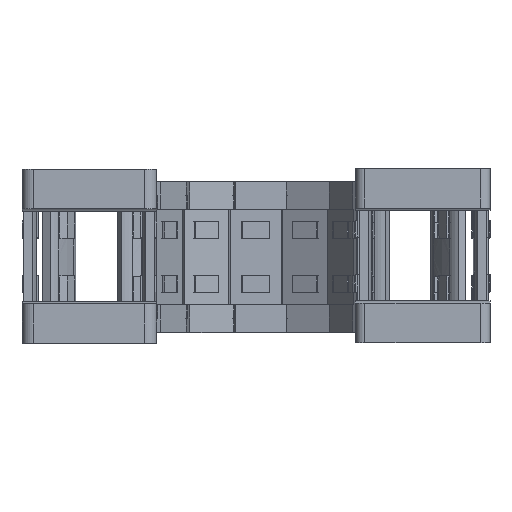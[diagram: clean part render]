
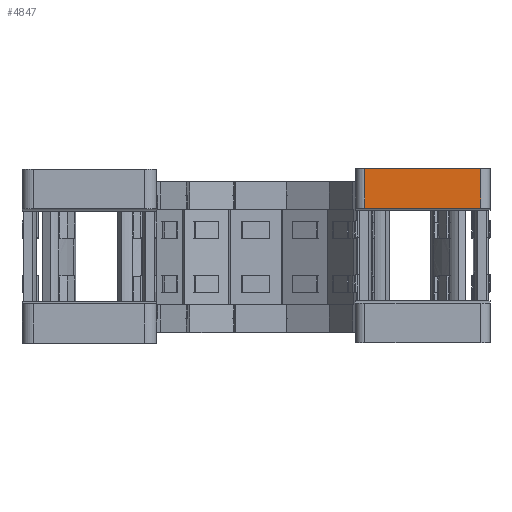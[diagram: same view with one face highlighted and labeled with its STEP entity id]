
A CAD part, top view. The second image highlights one B-rep face of the part: STEP entity #4847.
In plain terms, the highlighted planar face has unit normal (0, 0, 1).
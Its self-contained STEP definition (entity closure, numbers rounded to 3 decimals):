
#1865=FACE_OUTER_BOUND('',#25395,.T.);
#4847=ADVANCED_FACE('',(#1865),#7940,.T.);
#7940=PLANE('',#67131);
#11516=LINE('',#90985,#18372);
#11530=LINE('',#91030,#18386);
#11550=LINE('',#91105,#18406);
#11551=LINE('',#91106,#18407);
#18372=VECTOR('',#73045,1.);
#18386=VECTOR('',#73077,1.);
#18406=VECTOR('',#73141,1.);
#18407=VECTOR('',#73142,1.);
#25395=EDGE_LOOP('',(#29782,#29783,#29784,#29785));
#29782=ORIENTED_EDGE('',*,*,#55899,.T.);
#29783=ORIENTED_EDGE('',*,*,#55868,.T.);
#29784=ORIENTED_EDGE('',*,*,#55900,.T.);
#29785=ORIENTED_EDGE('',*,*,#55847,.T.);
#48977=VERTEX_POINT('',#90984);
#48978=VERTEX_POINT('',#90986);
#48992=VERTEX_POINT('',#91029);
#48993=VERTEX_POINT('',#91031);
#55847=EDGE_CURVE('',#48978,#48977,#11516,.T.);
#55868=EDGE_CURVE('',#48993,#48992,#11530,.T.);
#55899=EDGE_CURVE('',#48977,#48993,#11550,.T.);
#55900=EDGE_CURVE('',#48992,#48978,#11551,.T.);
#67131=AXIS2_PLACEMENT_3D('',#91107,#73143,#73144);
#73045=DIRECTION('',(1.,0.,0.));
#73077=DIRECTION('',(-1.,0.,0.));
#73141=DIRECTION('',(0.,1.,0.));
#73142=DIRECTION('',(0.,-1.,0.));
#73143=DIRECTION('',(0.,0.,1.));
#73144=DIRECTION('',(1.,0.,0.));
#90984=CARTESIAN_POINT('',(432.179,34.434,931.59));
#90985=CARTESIAN_POINT('',(406.843,34.434,931.59));
#90986=CARTESIAN_POINT('',(407.179,34.434,931.59));
#91029=CARTESIAN_POINT('',(407.179,42.934,931.59));
#91030=CARTESIAN_POINT('',(430.843,42.934,931.59));
#91031=CARTESIAN_POINT('',(432.179,42.934,931.59));
#91105=CARTESIAN_POINT('',(432.179,34.821,931.59));
#91106=CARTESIAN_POINT('',(407.179,34.821,931.59));
#91107=CARTESIAN_POINT('',(406.843,34.821,931.59));
